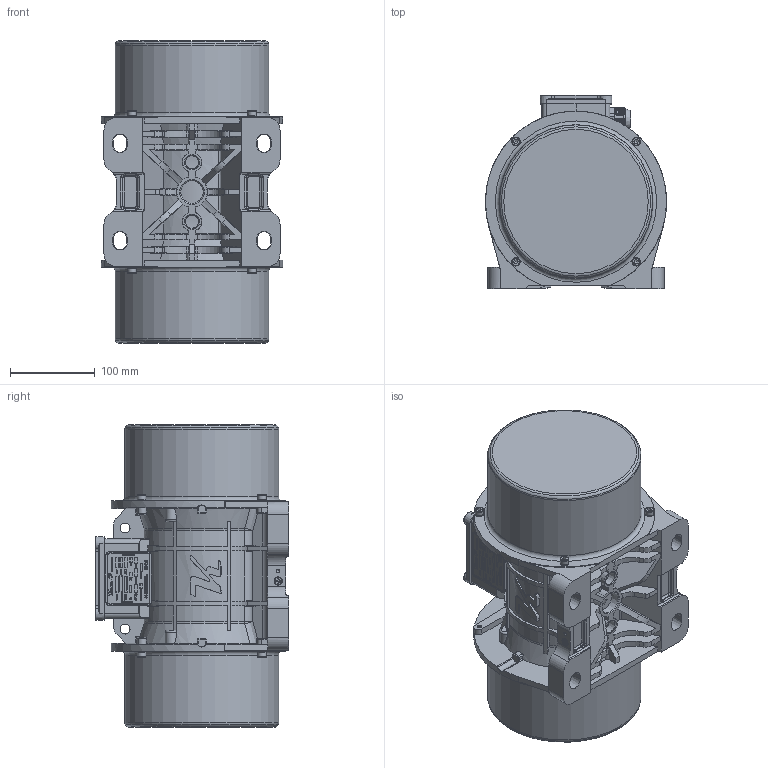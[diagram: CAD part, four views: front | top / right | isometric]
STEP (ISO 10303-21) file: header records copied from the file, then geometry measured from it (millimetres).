
FILE_DESCRIPTION(/* description */ (''),/* implementation_level */ '2;1');
FILE_NAME(/* name */ '4 NO A TAS.stp',/* time_stamp */ '2026-08-31T17:10:06+03:00',/* author */ ('PC'),/* organization */ (''),/* preprocessor_version */ 'ST-DEVELOPER v20.1',/* originating_system */ 'Autodesk Inventor 2026',/* authorisation */ '');
FILE_SCHEMA (('AUTOMOTIVE_DESIGN { 1 0 10303 214 3 1 1 }'));
Products named in the file (1): 4 NO A TAS
Bounding box: 213.97 x 228.87 x 357.6 mm (x, y, z)
Volume: 8779104.3 mm3; surface area: 447891.2 mm2
Topology: 14 solids, 24 shells, 4284 faces, 11645 edges, 7647 vertices
Faces by surface type: plane 2653, bspline 1054, cylinder 322, cone 165, torus 82, sphere 8
Full cylindrical faces by diameter (mm): 4.134 x4, 4.917 x4, 5 x4, 6 x8, 6.4 x8, 6.647 x5, 6.8 x8, 8.358 x1, 8.5 x4, 9.95 x1, 10 x8, 14 x1, 15 x1, 20 x1, 22 x1, 181.6 x2
Entity records: 156603 total; most frequent: CARTESIAN_POINT 51649, ORIENTED_EDGE 23236, DIRECTION 16653, EDGE_CURVE 11618, LINE 7851, VECTOR 7851, VERTEX_POINT 7649, EDGE_LOOP 4649
